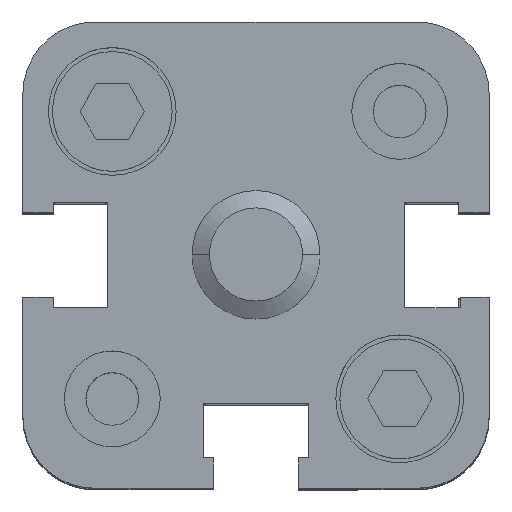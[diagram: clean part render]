
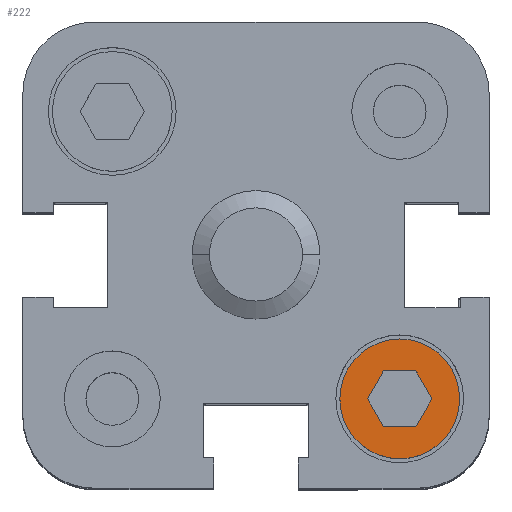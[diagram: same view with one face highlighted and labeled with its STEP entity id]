
A CAD part, top view. The second image highlights one B-rep face of the part: STEP entity #222.
In plain terms, the highlighted planar face has unit normal (0, 0, 1).
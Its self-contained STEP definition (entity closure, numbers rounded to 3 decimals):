
#125 = EDGE_CURVE ( 'NONE', #132, #370, #15168, .T. ) ;
#132 = VERTEX_POINT ( 'NONE', #15191 ) ;
#171 = ORIENTED_EDGE ( 'NONE', *, *, #125, .T. ) ;
#174 = EDGE_LOOP ( 'NONE', ( #363, #23635, #336, #301, #282, #273 ) ) ;
#175 = ORIENTED_EDGE ( 'NONE', *, *, #176, .T. ) ;
#176 = EDGE_CURVE ( 'NONE', #370, #132, #15337, .T. ) ;
#204 = EDGE_LOOP ( 'NONE', ( #171, #175 ) ) ;
#222 = ADVANCED_FACE ( 'NONE', ( #15450, #15449 ), #15434, .T. ) ;
#262 = VERTEX_POINT ( 'NONE', #15484 ) ;
#273 = ORIENTED_EDGE ( 'NONE', *, *, #277, .F. ) ;
#277 = EDGE_CURVE ( 'NONE', #23651, #280, #15524, .T. ) ;
#280 = VERTEX_POINT ( 'NONE', #15516 ) ;
#282 = ORIENTED_EDGE ( 'NONE', *, *, #284, .T. ) ;
#283 = VERTEX_POINT ( 'NONE', #15559 ) ;
#284 = EDGE_CURVE ( 'NONE', #283, #280, #15554, .T. ) ;
#300 = EDGE_CURVE ( 'NONE', #262, #283, #15587, .T. ) ;
#301 = ORIENTED_EDGE ( 'NONE', *, *, #300, .T. ) ;
#335 = EDGE_CURVE ( 'NONE', #262, #23629, #15691, .T. ) ;
#336 = ORIENTED_EDGE ( 'NONE', *, *, #335, .F. ) ;
#344 = EDGE_CURVE ( 'NONE', #23655, #23629, #15675, .T. ) ;
#363 = ORIENTED_EDGE ( 'NONE', *, *, #364, .F. ) ;
#364 = EDGE_CURVE ( 'NONE', #23655, #23651, #15697, .T. ) ;
#370 = VERTEX_POINT ( 'NONE', #15746 ) ;
#15164 = DIRECTION ( 'NONE',  ( 0.866, 0.5, 0. ) ) ;
#15165 = DIRECTION ( 'NONE',  ( 0., 0., 1. ) ) ;
#15166 = CARTESIAN_POINT ( 'NONE',  ( 9., -9., 13.5 ) ) ;
#15167 = AXIS2_PLACEMENT_3D ( 'NONE', #15166, #15165, #15164 ) ;
#15168 = CIRCLE ( 'NONE', #15167, 3.75 ) ;
#15191 = CARTESIAN_POINT ( 'NONE',  ( 12.248, -7.125, 13.5 ) ) ;
#15328 = DIRECTION ( 'NONE',  ( 0.866, 0.5, 0. ) ) ;
#15329 = DIRECTION ( 'NONE',  ( 0., 0., 1. ) ) ;
#15330 = CARTESIAN_POINT ( 'NONE',  ( 9., -9., 13.5 ) ) ;
#15331 = AXIS2_PLACEMENT_3D ( 'NONE', #15330, #15329, #15328 ) ;
#15337 = CIRCLE ( 'NONE', #15331, 3.75 ) ;
#15429 = DIRECTION ( 'NONE',  ( 0.866, 0.5, 0. ) ) ;
#15430 = DIRECTION ( 'NONE',  ( 0., 0., 1. ) ) ;
#15431 = CARTESIAN_POINT ( 'NONE',  ( 9., -9., 13.5 ) ) ;
#15432 = AXIS2_PLACEMENT_3D ( 'NONE', #15431, #15430, #15429 ) ;
#15434 = PLANE ( 'NONE',  #15432 ) ;
#15449 = FACE_BOUND ( 'NONE', #174, .T. ) ;
#15450 = FACE_OUTER_BOUND ( 'NONE', #204, .T. ) ;
#15484 = CARTESIAN_POINT ( 'NONE',  ( 11.021, -9., 13.5 ) ) ;
#15516 = CARTESIAN_POINT ( 'NONE',  ( 7.99, -10.75, 13.5 ) ) ;
#15521 = DIRECTION ( 'NONE',  ( 0.5, -0.866, 0. ) ) ;
#15522 = VECTOR ( 'NONE', #15521, 1000. ) ;
#15523 = CARTESIAN_POINT ( 'NONE',  ( 6.979, -9., 13.5 ) ) ;
#15524 = LINE ( 'NONE', #15523, #15522 ) ;
#15551 = DIRECTION ( 'NONE',  ( -1., 0., 0. ) ) ;
#15552 = VECTOR ( 'NONE', #15551, 1000. ) ;
#15553 = CARTESIAN_POINT ( 'NONE',  ( 10.01, -10.75, 13.5 ) ) ;
#15554 = LINE ( 'NONE', #15553, #15552 ) ;
#15559 = CARTESIAN_POINT ( 'NONE',  ( 10.01, -10.75, 13.5 ) ) ;
#15584 = DIRECTION ( 'NONE',  ( -0.5, -0.866, 0. ) ) ;
#15585 = VECTOR ( 'NONE', #15584, 1000. ) ;
#15586 = CARTESIAN_POINT ( 'NONE',  ( 11.021, -9., 13.5 ) ) ;
#15587 = LINE ( 'NONE', #15586, #15585 ) ;
#15672 = DIRECTION ( 'NONE',  ( 1., 0., 0. ) ) ;
#15673 = VECTOR ( 'NONE', #15672, 1000. ) ;
#15674 = CARTESIAN_POINT ( 'NONE',  ( 7.99, -7.25, 13.5 ) ) ;
#15675 = LINE ( 'NONE', #15674, #15673 ) ;
#15688 = DIRECTION ( 'NONE',  ( -0.5, 0.866, 0. ) ) ;
#15689 = VECTOR ( 'NONE', #15688, 1000. ) ;
#15690 = CARTESIAN_POINT ( 'NONE',  ( 11.021, -9., 13.5 ) ) ;
#15691 = LINE ( 'NONE', #15690, #15689 ) ;
#15694 = DIRECTION ( 'NONE',  ( -0.5, -0.866, 0. ) ) ;
#15695 = VECTOR ( 'NONE', #15694, 1000. ) ;
#15696 = CARTESIAN_POINT ( 'NONE',  ( 7.99, -7.25, 13.5 ) ) ;
#15697 = LINE ( 'NONE', #15696, #15695 ) ;
#15746 = CARTESIAN_POINT ( 'NONE',  ( 5.752, -10.875, 13.5 ) ) ;
#22324 = CARTESIAN_POINT ( 'NONE',  ( 10.01, -7.25, 13.5 ) ) ;
#22345 = CARTESIAN_POINT ( 'NONE',  ( 7.99, -7.25, 13.5 ) ) ;
#22347 = CARTESIAN_POINT ( 'NONE',  ( 6.979, -9., 13.5 ) ) ;
#23629 = VERTEX_POINT ( 'NONE', #22324 ) ;
#23635 = ORIENTED_EDGE ( 'NONE', *, *, #344, .T. ) ;
#23651 = VERTEX_POINT ( 'NONE', #22347 ) ;
#23655 = VERTEX_POINT ( 'NONE', #22345 ) ;
